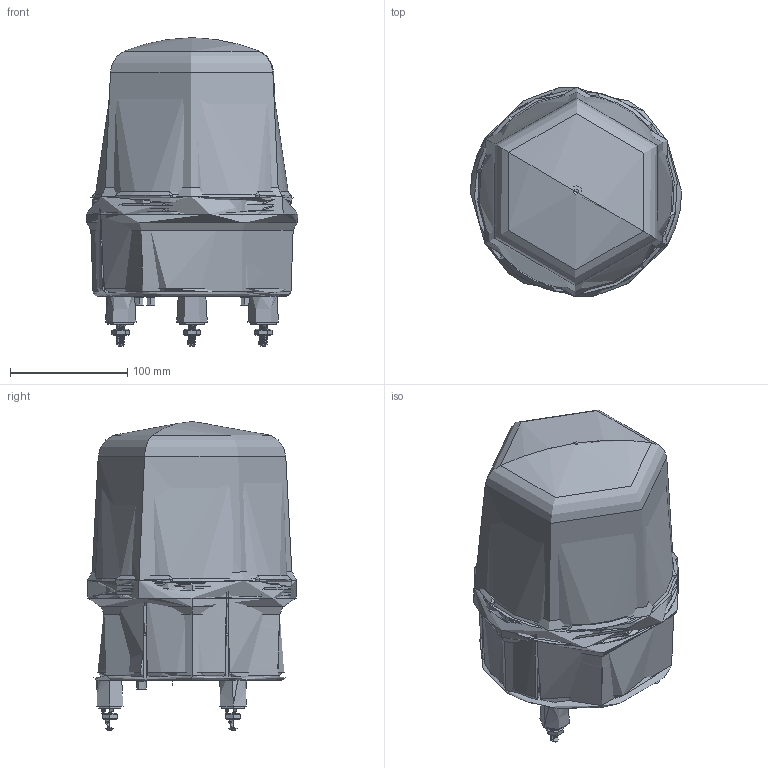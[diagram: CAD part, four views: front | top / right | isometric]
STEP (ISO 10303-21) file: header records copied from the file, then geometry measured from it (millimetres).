
FILE_DESCRIPTION((''),'2;1');
FILE_NAME('TWRW18_ASM','2016-06-17T',('Administrator'),(''),'PRO/ENGINEER BY PARAMETRIC TECHNOLOGY CORPORATION, 2012360','PRO/ENGINEER BY PARAMETRIC TECHNOLOGY CORPORATION, 2012360','');
FILE_SCHEMA(('CONFIG_CONTROL_DESIGN'));
Length unit declared in the file: millimetre
Products named in the file (1): TWRW18_ASM
Bounding box: 180 x 178.42 x 262.5 mm (x, y, z)
Topology: 1 solids, 43 shells, 3115 faces, 8674 edges, 5620 vertices
Faces by surface type: plane 1144, cylinder 1121, bspline 462, cone 220, extrusion 77, torus 68, sphere 23
Entity records: 154699 total; most frequent: CARTESIAN_POINT 77877, ORIENTED_EDGE 17278, DIRECTION 13663, EDGE_CURVE 8645, VECTOR 6325, LINE 6248, VERTEX_POINT 5697, AXIS2_PLACEMENT_3D 3669
